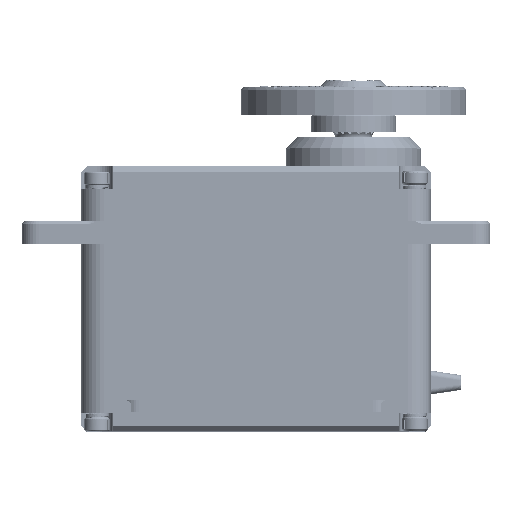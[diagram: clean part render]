
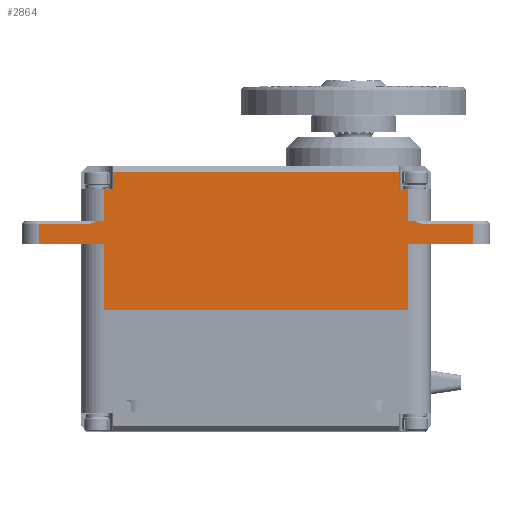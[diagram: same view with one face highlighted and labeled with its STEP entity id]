
A CAD part, top view. The second image highlights one B-rep face of the part: STEP entity #2864.
In plain terms, the highlighted planar face has unit normal (0, 0, 1).
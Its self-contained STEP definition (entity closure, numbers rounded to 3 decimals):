
#55=DIRECTION('',(1.,0.,0.));
#56=VECTOR('',#55,54.);
#57=CARTESIAN_POINT('',(-27.,0.,15.));
#58=LINE('',#57,#56);
#222=DIRECTION('',(1.,0.,0.));
#223=VECTOR('',#222,11.5);
#224=CARTESIAN_POINT('',(-38.5,11.8,15.));
#225=LINE('',#224,#223);
#287=DIRECTION('',(1.,0.,0.));
#288=VECTOR('',#287,11.5);
#289=CARTESIAN_POINT('',(27.,11.8,15.));
#290=LINE('',#289,#288);
#373=DIRECTION('',(1.,0.,0.));
#374=VECTOR('',#373,1.197);
#375=CARTESIAN_POINT('',(27.,15.8,15.));
#376=LINE('',#375,#374);
#576=DIRECTION('',(1.,0.,0.));
#577=VECTOR('',#576,1.197);
#578=CARTESIAN_POINT('',(-28.197,15.8,15.));
#579=LINE('',#578,#577);
#583=CARTESIAN_POINT('',(-28.197,15.8,15.));
#584=CARTESIAN_POINT('',(-28.415,15.688,15.));
#585=CARTESIAN_POINT('',(-28.838,15.5,15.));
#586=CARTESIAN_POINT('',(-29.427,15.336,15.));
#587=CARTESIAN_POINT('',(-29.811,15.3,15.));
#588=CARTESIAN_POINT('',(-30.,15.3,15.));
#593=DIRECTION('',(0.,1.,0.));
#594=VECTOR('',#593,5.7);
#595=CARTESIAN_POINT('',(-27.,15.8,15.));
#596=LINE('',#595,#594);
#600=DIRECTION('',(1.,0.,0.));
#601=VECTOR('',#600,1.583);
#602=CARTESIAN_POINT('',(-27.,21.5,15.));
#603=LINE('',#602,#601);
#607=DIRECTION('',(0.,-1.,0.));
#608=VECTOR('',#607,3.);
#609=CARTESIAN_POINT('',(-25.417,24.5,15.));
#610=LINE('',#609,#608);
#614=DIRECTION('',(1.,0.,0.));
#615=VECTOR('',#614,50.833);
#616=CARTESIAN_POINT('',(-25.417,24.5,15.));
#617=LINE('',#616,#615);
#621=DIRECTION('',(0.,-1.,0.));
#622=VECTOR('',#621,3.);
#623=CARTESIAN_POINT('',(25.417,24.5,15.));
#624=LINE('',#623,#622);
#628=DIRECTION('',(1.,0.,0.));
#629=VECTOR('',#628,1.583);
#630=CARTESIAN_POINT('',(25.417,21.5,15.));
#631=LINE('',#630,#629);
#635=CARTESIAN_POINT('',(28.197,15.8,15.));
#636=CARTESIAN_POINT('',(28.415,15.688,15.));
#637=CARTESIAN_POINT('',(28.838,15.5,15.));
#638=CARTESIAN_POINT('',(29.427,15.336,15.));
#639=CARTESIAN_POINT('',(29.811,15.3,15.));
#640=CARTESIAN_POINT('',(30.,15.3,15.));
#645=DIRECTION('',(-1.,0.,0.));
#646=VECTOR('',#645,8.5);
#647=CARTESIAN_POINT('',(38.5,15.3,15.));
#648=LINE('',#647,#646);
#652=DIRECTION('',(0.,-1.,0.));
#653=VECTOR('',#652,3.5);
#654=CARTESIAN_POINT('',(38.5,15.3,15.));
#655=LINE('',#654,#653);
#659=DIRECTION('',(0.,1.,0.));
#660=VECTOR('',#659,11.8);
#661=CARTESIAN_POINT('',(-27.,0.,15.));
#662=LINE('',#661,#660);
#666=DIRECTION('',(0.,-1.,0.));
#667=VECTOR('',#666,3.5);
#668=CARTESIAN_POINT('',(-38.5,15.3,15.));
#669=LINE('',#668,#667);
#673=DIRECTION('',(1.,0.,0.));
#674=VECTOR('',#673,8.5);
#675=CARTESIAN_POINT('',(-38.5,15.3,15.));
#676=LINE('',#675,#674);
#1855=DIRECTION('',(0.,1.,0.));
#1856=VECTOR('',#1855,11.8);
#1857=CARTESIAN_POINT('',(27.,0.,15.));
#1858=LINE('',#1857,#1856);
#1878=DIRECTION('',(0.,1.,0.));
#1879=VECTOR('',#1878,5.7);
#1880=CARTESIAN_POINT('',(27.,15.8,15.));
#1881=LINE('',#1880,#1879);
#2083=CARTESIAN_POINT('',(-27.,0.,15.));
#2084=VERTEX_POINT('',#2083);
#2085=CARTESIAN_POINT('',(27.,0.,15.));
#2086=VERTEX_POINT('',#2085);
#2179=CARTESIAN_POINT('',(-27.,21.5,15.));
#2180=VERTEX_POINT('',#2179);
#2181=CARTESIAN_POINT('',(-25.417,21.5,15.));
#2182=VERTEX_POINT('',#2181);
#2183=CARTESIAN_POINT('',(25.417,21.5,15.));
#2184=CARTESIAN_POINT('',(27.,21.5,15.));
#2185=VERTEX_POINT('',#2183);
#2186=VERTEX_POINT('',#2184);
#2187=CARTESIAN_POINT('',(-25.417,24.5,15.));
#2188=VERTEX_POINT('',#2187);
#2189=CARTESIAN_POINT('',(25.417,24.5,15.));
#2190=VERTEX_POINT('',#2189);
#2221=CARTESIAN_POINT('',(-27.,15.8,15.));
#2222=VERTEX_POINT('',#2221);
#2223=CARTESIAN_POINT('',(-27.,11.8,15.));
#2224=VERTEX_POINT('',#2223);
#2225=CARTESIAN_POINT('',(27.,15.8,15.));
#2227=VERTEX_POINT('',#2225);
#2229=CARTESIAN_POINT('',(27.,11.8,15.));
#2231=VERTEX_POINT('',#2229);
#2233=CARTESIAN_POINT('',(-38.5,11.8,15.));
#2235=VERTEX_POINT('',#2233);
#2242=CARTESIAN_POINT('',(38.5,11.8,15.));
#2244=VERTEX_POINT('',#2242);
#2310=VERTEX_POINT('',#635);
#2311=VERTEX_POINT('',#640);
#2312=CARTESIAN_POINT('',(38.5,15.3,15.));
#2313=VERTEX_POINT('',#2312);
#2346=CARTESIAN_POINT('',(-30.,15.3,15.));
#2348=VERTEX_POINT('',#2346);
#2350=CARTESIAN_POINT('',(-38.5,15.3,15.));
#2352=VERTEX_POINT('',#2350);
#2371=VERTEX_POINT('',#583);
#2825=CARTESIAN_POINT('',(-27.,0.,15.));
#2826=DIRECTION('',(0.,0.,1.));
#2827=DIRECTION('',(1.,0.,0.));
#2828=AXIS2_PLACEMENT_3D('',#2825,#2826,#2827);
#2829=PLANE('',#2828);
#2830=ORIENTED_EDGE('',*,*,#2705,.F.);
#2831=ORIENTED_EDGE('',*,*,#2800,.T.);
#2833=ORIENTED_EDGE('',*,*,#2832,.T.);
#2835=ORIENTED_EDGE('',*,*,#2834,.T.);
#2837=ORIENTED_EDGE('',*,*,#2836,.F.);
#2839=ORIENTED_EDGE('',*,*,#2838,.T.);
#2841=ORIENTED_EDGE('',*,*,#2840,.T.);
#2843=ORIENTED_EDGE('',*,*,#2842,.T.);
#2845=ORIENTED_EDGE('',*,*,#2844,.F.);
#2846=ORIENTED_EDGE('',*,*,#2724,.T.);
#2847=ORIENTED_EDGE('',*,*,#2810,.T.);
#2849=ORIENTED_EDGE('',*,*,#2848,.F.);
#2851=ORIENTED_EDGE('',*,*,#2850,.T.);
#2852=ORIENTED_EDGE('',*,*,#2540,.F.);
#2854=ORIENTED_EDGE('',*,*,#2853,.F.);
#2855=ORIENTED_EDGE('',*,*,#2411,.F.);
#2857=ORIENTED_EDGE('',*,*,#2856,.T.);
#2858=ORIENTED_EDGE('',*,*,#2501,.F.);
#2860=ORIENTED_EDGE('',*,*,#2859,.F.);
#2861=ORIENTED_EDGE('',*,*,#2682,.T.);
#2862=EDGE_LOOP('',(#2830,#2831,#2833,#2835,#2837,#2839,#2841,#2843,#2845,#2846,
#2847,#2849,#2851,#2852,#2854,#2855,#2857,#2858,#2860,#2861));
#2863=FACE_OUTER_BOUND('',#2862,.F.);
#2864=ADVANCED_FACE('',(#2863),#2829,.T.);
#589=B_SPLINE_CURVE_WITH_KNOTS('',3,(#583,#584,#585,#586,#587,#588),
.UNSPECIFIED.,.F.,.F.,(4,1,1,4),(0.,0.333,0.667,1.),
.UNSPECIFIED.);
#641=B_SPLINE_CURVE_WITH_KNOTS('',3,(#635,#636,#637,#638,#639,#640),
.UNSPECIFIED.,.F.,.F.,(4,1,1,4),(0.,0.333,0.667,1.),
.UNSPECIFIED.);
#2411=EDGE_CURVE('',#2084,#2086,#58,.T.);
#2501=EDGE_CURVE('',#2235,#2224,#225,.T.);
#2540=EDGE_CURVE('',#2231,#2244,#290,.T.);
#2682=EDGE_CURVE('',#2352,#2348,#676,.T.);
#2705=EDGE_CURVE('',#2371,#2348,#589,.T.);
#2724=EDGE_CURVE('',#2227,#2310,#376,.T.);
#2800=EDGE_CURVE('',#2371,#2222,#579,.T.);
#2810=EDGE_CURVE('',#2310,#2311,#641,.T.);
#2832=EDGE_CURVE('',#2222,#2180,#596,.T.);
#2834=EDGE_CURVE('',#2180,#2182,#603,.T.);
#2836=EDGE_CURVE('',#2188,#2182,#610,.T.);
#2838=EDGE_CURVE('',#2188,#2190,#617,.T.);
#2840=EDGE_CURVE('',#2190,#2185,#624,.T.);
#2842=EDGE_CURVE('',#2185,#2186,#631,.T.);
#2844=EDGE_CURVE('',#2227,#2186,#1881,.T.);
#2848=EDGE_CURVE('',#2313,#2311,#648,.T.);
#2850=EDGE_CURVE('',#2313,#2244,#655,.T.);
#2853=EDGE_CURVE('',#2086,#2231,#1858,.T.);
#2856=EDGE_CURVE('',#2084,#2224,#662,.T.);
#2859=EDGE_CURVE('',#2352,#2235,#669,.T.);
